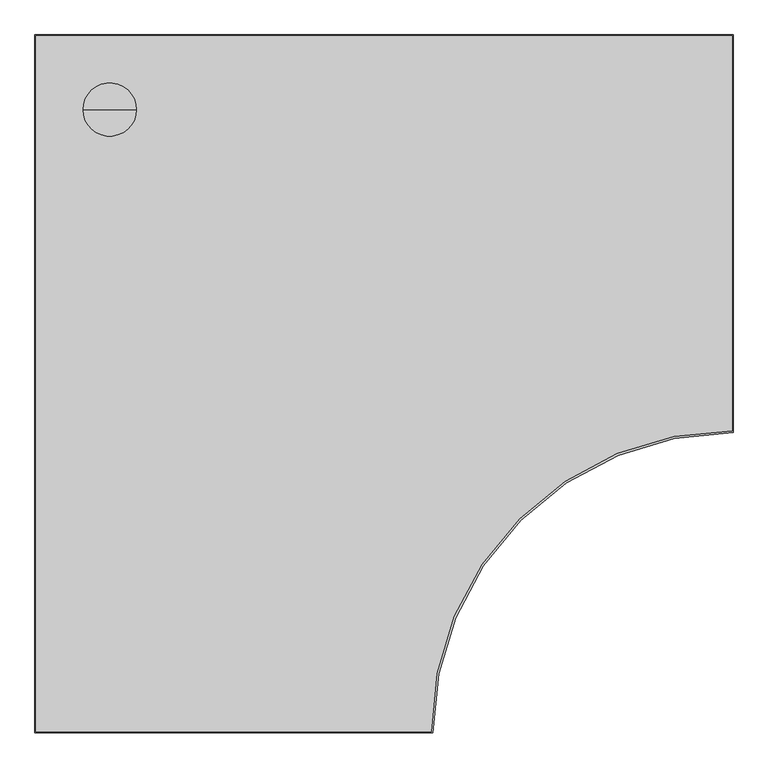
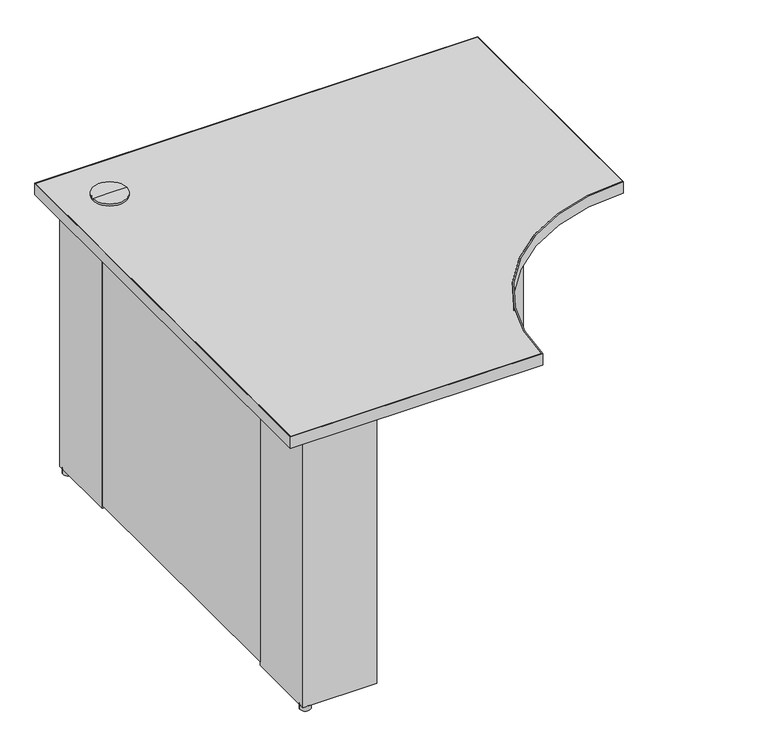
"""IFC4 building model written with IfcOpenShell, lengths in millimetres: furniture geometry, Steelcase - Kick Freestanding - Desk - Curve Corner - Full Height Modesty Panel : 24D x 42W - Two Clear Access Support - LPL."""

from ifc_helpers import new_model, si_unit, point, frame, frame_2d, origin, origin_with_axes, place, context, project, spatial, polyline, circle_curve, trimmed, segment, composite_curve, outline, extrude, source, transform, mapped, element, save
from ifc_brep_helpers import plane_surface, cylinder_surface, advanced_brep


def furniture_9b6cef95(model_context):
    return source(origin(), model_context, "Body", "SolidModel", [
        extrude(outline(polyline([(874.0393822, -63.5), (874.0393822, -38.1), (1051.8393579, -38.1), (1051.8393579, -215.8999939), (1025.9313463, -215.8999939), (1025.9313463, -63.5), (874.0393822, -63.5)])), frame((0.0, 0.0, 12.446), z_axis=(0.0, 0.0, 1.0), x_axis=(1.0, 0.0, 0.0)), (0.0, 0.0, 1.0), 682.498),
        extrude(outline(polyline([(215.8999939, -63.5), (63.5, -63.5), (63.5, -215.8999939), (38.1, -215.8999939), (38.1, -38.1), (215.8999939, -38.1), (215.8999939, -63.5)])), frame((0.0, 0.0, 12.446), z_axis=(0.0, 0.0, 1.0), x_axis=(1.0, 0.0, 0.0)), (0.0, 0.0, 1.0), 682.498),
        advanced_brep(
        [(114.3, -114.3, 728.98), (154.94, -114.3, 728.98), (73.66, -114.3, 728.98), (76.1699693, -114.3, 694.944), (152.4300307, -114.3, 694.944), (114.3, -114.3, 694.944), (76.1699693, -114.3, 723.9), (152.4300307, -114.3, 723.9), (73.66, -114.3, 723.9), (154.94, -114.3, 723.9)],
        [
            (0, 1),
            (1, 2, circle_curve(frame((114.3, -114.3, 728.98), z_axis=(0.0, 0.0, 1.0), x_axis=(1.0, 0.0, 0.0)), 40.64)),
            (2, 0),
            (2, 1, circle_curve(frame((114.3, -114.3, 728.98), z_axis=(0.0, 0.0, 1.0), x_axis=(1.0, 0.0, 0.0)), 40.64)),
            (3, 4, circle_curve(frame((114.3, -114.3, 694.944), z_axis=(0.0, 0.0, -1.0), x_axis=(1.0, 0.0, 0.0)), 38.1300307)),
            (4, 5),
            (5, 3),
            (4, 3, circle_curve(frame((114.3, -114.3, 694.944), z_axis=(0.0, 0.0, -1.0), x_axis=(1.0, 0.0, 0.0)), 38.1300307)),
            (6, 7, circle_curve(frame((114.3, -114.3, 723.9), z_axis=(0.0, 0.0, -1.0), x_axis=(1.0, 0.0, 0.0)), 38.1300307)),
            (7, 4),
            (3, 6),
            (7, 6, circle_curve(frame((114.3, -114.3, 723.9), z_axis=(0.0, 0.0, -1.0), x_axis=(1.0, 0.0, 0.0)), 38.1300307)),
            (8, 9, circle_curve(frame((114.3, -114.3, 723.9), z_axis=(0.0, 0.0, -1.0), x_axis=(1.0, 0.0, 0.0)), 40.64)),
            (9, 7),
            (6, 8),
            (9, 8, circle_curve(frame((114.3, -114.3, 723.9), z_axis=(0.0, 0.0, -1.0), x_axis=(1.0, 0.0, 0.0)), 40.64)),
            (1, 9),
            (8, 2),
        ],
        [
            plane_surface(frame((114.3, -114.3, 728.98), z_axis=(0.0, 0.0, 1.0), x_axis=(1.0, 0.0, 0.0))),
            plane_surface(frame((114.3, -114.3, 694.944), z_axis=(0.0, 0.0, -1.0), x_axis=(1.0, 0.0, 0.0))),
            cylinder_surface(frame((114.3, -114.3, 728.98), z_axis=(0.0, 0.0, 1.0), x_axis=(1.0, 0.0, 0.0)), 38.1300307),
            plane_surface(frame((114.3, -114.3, 723.9), z_axis=(0.0, 0.0, -1.0), x_axis=(1.0, 0.0, 0.0))),
            cylinder_surface(frame((114.3, -114.3, 728.98), z_axis=(0.0, 0.0, 1.0), x_axis=(1.0, 0.0, 0.0)), 40.64),
        ],
        [
            (0, [[1, 2, 3]]),
            (0, [[-3, 4, -1]]),
            (1, [[5, 6, 7]]),
            (1, [[8, -7, -6]]),
            (2, [[9, 10, -5, 11]]),
            (2, [[12, -11, -8, -10]]),
            (3, [[13, 14, -9, 15]]),
            (3, [[16, -15, -12, -14]]),
            (4, [[-2, 17, -13, 18]]),
            (4, [[-4, -18, -16, -17]]),
        ],
    ),
        extrude(outline(composite_curve([segment(trimmed(circle_curve(frame_2d((50.8, -50.8)), 12.7), [point((38.1, -50.8))], [point((63.5, -50.8))], False, "CARTESIAN"), True, "CONTINUOUS"), segment(trimmed(circle_curve(frame_2d((50.8, -50.8)), 12.7), [point((63.5, -50.8))], [point((38.1, -50.8))], False, "CARTESIAN"), True, "CONTINUOUS")], self_intersect=False)), origin_with_axes(), (0.0, 0.0, 1.0), 12.446),
        extrude(outline(composite_curve([segment(trimmed(circle_curve(frame_2d((50.8, -1040.1300073)), 12.7484998), [point((38.0515002, -1040.1300073))], [point((63.5484998, -1040.1300073))], False, "CARTESIAN"), True, "CONTINUOUS"), segment(trimmed(circle_curve(frame_2d((50.8, -1040.1300073)), 12.7484998), [point((63.5484998, -1040.1300073))], [point((38.0515002, -1040.1300073))], False, "CARTESIAN"), True, "CONTINUOUS")], self_intersect=False)), origin_with_axes(), (0.0, 0.0, 1.0), 12.446),
        extrude(outline(composite_curve([segment(trimmed(circle_curve(frame_2d((1038.8853521, -50.8)), 12.7), [point((1026.1853521, -50.8))], [point((1051.5853521, -50.8))], False, "CARTESIAN"), True, "CONTINUOUS"), segment(trimmed(circle_curve(frame_2d((1038.8853521, -50.8)), 12.7), [point((1051.5853521, -50.8))], [point((1026.1853521, -50.8))], False, "CARTESIAN"), True, "CONTINUOUS")], self_intersect=False)), origin_with_axes(), (0.0, 0.0, 1.0), 12.446),
        extrude(outline(polyline([(63.5, -215.8999939), (63.5, -875.0300194), (38.1, -875.0300194), (38.1, -215.8999939), (63.5, -215.8999939)])), frame((0.0, 0.0, 20.828), z_axis=(0.0, 0.0, 1.0), x_axis=(1.0, 0.0, 0.0)), (0.0, 0.0, 1.0), 674.116),
        extrude(outline(polyline([(874.0393822, -38.1), (874.0393822, -63.5), (215.8999939, -63.5), (215.8999939, -38.1), (874.0393822, -38.1)])), frame((0.0, 0.0, 20.828), z_axis=(0.0, 0.0, 1.0), x_axis=(1.0, 0.0, 0.0)), (0.0, 0.0, 1.0), 674.116),
        extrude(outline(polyline([(215.8999939, -1027.4300194), (215.8999939, -1052.8299952), (38.1, -1052.8299952), (38.1, -875.0300194), (63.5, -875.0300194), (63.5, -1027.4300194), (215.8999939, -1027.4300194)])), frame((0.0, 0.0, 12.446), z_axis=(0.0, 0.0, 1.0), x_axis=(1.0, 0.0, 0.0)), (0.0, 0.0, 1.0), 682.498),
        extrude(outline(composite_curve([segment(polyline([(0.9906, -1065.8093628), (0.9906, -0.9906), (1065.8093628, -0.9906), (1065.8093628, -605.3354109)]), True, "CONTINUOUS"), segment(trimmed(circle_curve(frame_2d((1064.5393458, -1064.5393458)), 459.2056912), [point((1065.8093628, -605.3354109))], [point((605.3354109, -1065.8093628))], True, "CARTESIAN"), True, "CONTINUOUS"), segment(polyline([(605.3354109, -1065.8093628), (0.9906, -1065.8093628)]), True, "CONTINUOUS")], self_intersect=False)), frame((0.0, 0.0, 694.944), z_axis=(0.0, 0.0, 1.0), x_axis=(1.0, 0.0, 0.0)), (0.0, 0.0, 1.0), 28.956),
        extrude(outline(composite_curve([segment(polyline([(1066.8, 0.0), (1066.8, -608.332629)]), True, "CONTINUOUS"), segment(trimmed(circle_curve(frame_2d((1065.529983, -1065.529983)), 457.199118), [point((1066.8, -608.332629))], [point((608.332629, -1066.8))], True, "CARTESIAN"), True, "CONTINUOUS"), segment(polyline([(608.332629, -1066.8), (0.0, -1066.8), (0.0, 0.0), (1066.8, 0.0)]), True, "CONTINUOUS")], self_intersect=False), holes=[composite_curve([segment(polyline([(1065.8093628, -0.9906), (0.9906, -0.9906), (0.9906, -1065.8093628), (605.3354109, -1065.8093628)]), True, "CONTINUOUS"), segment(trimmed(circle_curve(frame_2d((1064.5393458, -1064.5393458)), 459.2056912), [point((605.3354109, -1065.8093628))], [point((1065.8093628, -605.3354109))], False, "CARTESIAN"), True, "CONTINUOUS"), segment(polyline([(1065.8093628, -605.3354109), (1065.8093628, -0.9906)]), True, "CONTINUOUS")], self_intersect=False)]), frame((0.0, 0.0, 694.944), z_axis=(0.0, 0.0, 1.0), x_axis=(1.0, 0.0, 0.0)), (0.0, 0.0, 1.0), 28.956),
    ])


if __name__ == "__main__":
    model = new_model("IFC4")
    model_context = context("Model", 3, world=origin())
    ifc_project = project(units=[si_unit("LENGTHUNIT", "METRE", prefix="MILLI")], contexts=[model_context])
    site = spatial("IfcSite", under=ifc_project)
    building = spatial("IfcBuilding", under=site)
    placement = place(None, origin())
    furniture_shape = furniture_9b6cef95(model_context)
    element("IfcFurniture", 1, ObjectType="Steelcase - Kick Freestanding - Desk - Curve Corner - Full Height Modesty Panel : 24D x 42W - Two Clear Access Support - LPL", at=placement, inside=building, context=model_context, shape_type="MappedRepresentation", body=[
        mapped(furniture_shape, transform((0.0, 0.0, 0.0), x_axis=(1.0, 0.0, 0.0), y_axis=(0.0, 1.0, 0.0), z_axis=(0.0, 0.0, 1.0))),
    ])
    save(model, "model.ifc")
